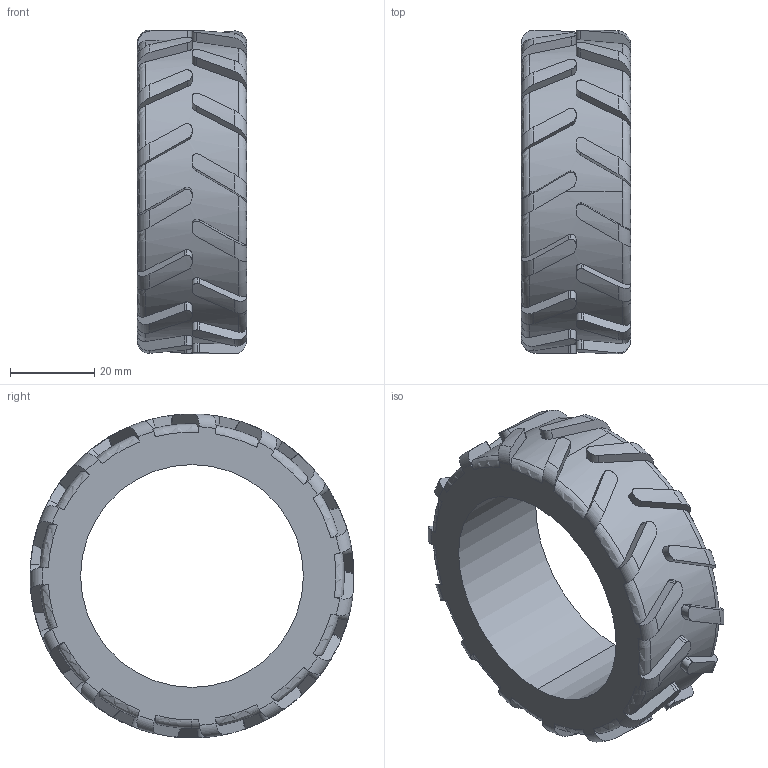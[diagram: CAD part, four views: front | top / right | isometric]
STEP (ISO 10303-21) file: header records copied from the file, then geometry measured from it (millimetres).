
FILE_DESCRIPTION (( 'STEP AP214' ), '1' );
FILE_NAME ('Ïîêðûøêà 56õ52õ26.STEP', '2019-03-21T14:00:57', ( '' ), ( '' ), 'SwSTEP 2.0', 'SolidWorks 2018', '' );
FILE_SCHEMA (( 'AUTOMOTIVE_DESIGN' ));
Length unit declared in the file: millimetre
Products named in the file (1): Ïîêðûøêà 56õ52õ26
Bounding box: 26 x 77.1 x 77.1 mm (x, y, z)
Volume: 53024.5 mm3; surface area: 16094.4 mm2
Topology: 1 solids, 1 shells, 295 faces, 877 edges, 584 vertices
Faces by surface type: cylinder 126, plane 107, torus 62
Entity records: 12350 total; most frequent: CARTESIAN_POINT 5204, ORIENTED_EDGE 1754, DIRECTION 1222, EDGE_CURVE 877, VERTEX_POINT 584, AXIS2_PLACEMENT_3D 488, B_SPLINE_CURVE_WITH_KNOTS 315, EDGE_LOOP 297
